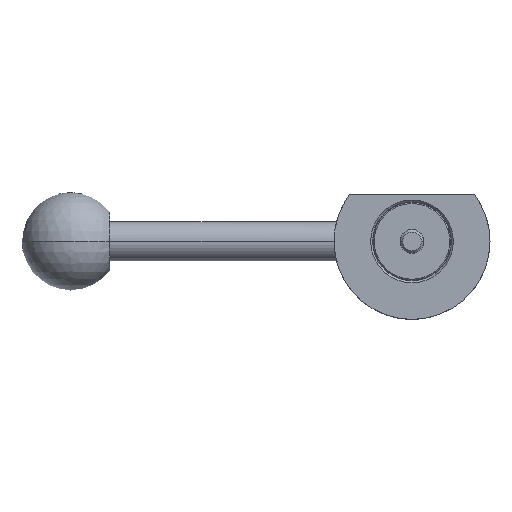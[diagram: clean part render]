
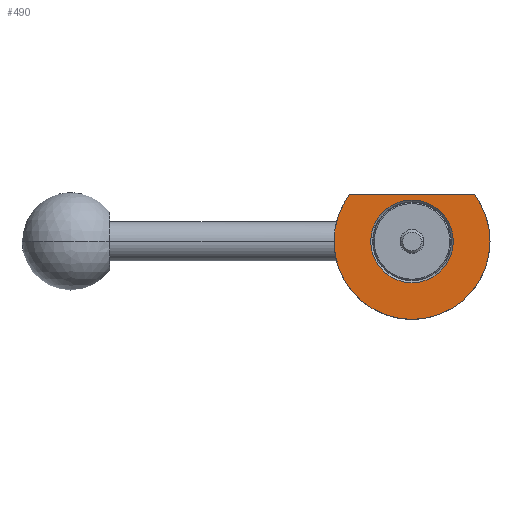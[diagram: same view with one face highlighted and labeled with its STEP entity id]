
A CAD part, front view. The second image highlights one B-rep face of the part: STEP entity #490.
In plain terms, the highlighted planar face has unit normal (0, -1, 0).
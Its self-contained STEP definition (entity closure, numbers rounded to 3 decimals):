
#20 = CIRCLE ( 'NONE', #961, 10.6 ) ;
#36 = DIRECTION ( 'NONE',  ( -1., 0., 0. ) ) ;
#106 = CARTESIAN_POINT ( 'NONE',  ( 20., -10., 0. ) ) ;
#160 = VERTEX_POINT ( 'NONE', #323 ) ;
#177 = DIRECTION ( 'NONE',  ( -1., 0., 0. ) ) ;
#205 = CARTESIAN_POINT ( 'NONE',  ( 0., -10., 0. ) ) ;
#263 = EDGE_CURVE ( 'NONE', #1406, #1553, #1927, .T. ) ;
#309 = VECTOR ( 'NONE', #1874, 1000. ) ;
#323 = CARTESIAN_POINT ( 'NONE',  ( -20., -10., 0. ) ) ;
#334 = EDGE_CURVE ( 'NONE', #1553, #1406, #20, .T. ) ;
#393 = DIRECTION ( 'NONE',  ( 0., 1., 0. ) ) ;
#433 = FACE_OUTER_BOUND ( 'NONE', #746, .T. ) ;
#450 = CIRCLE ( 'NONE', #1135, 20. ) ;
#490 = ADVANCED_FACE ( 'NONE', ( #724, #433 ), #1507, .T. ) ;
#508 = DIRECTION ( 'NONE',  ( -1., 0., 0. ) ) ;
#533 = CARTESIAN_POINT ( 'NONE',  ( -16.001, -10., 11.999 ) ) ;
#585 = ORIENTED_EDGE ( 'NONE', *, *, #971, .F. ) ;
#602 = ORIENTED_EDGE ( 'NONE', *, *, #1357, .F. ) ;
#637 = CIRCLE ( 'NONE', #1267, 20. ) ;
#639 = CARTESIAN_POINT ( 'NONE',  ( 0., -10., 0. ) ) ;
#724 = FACE_BOUND ( 'NONE', #1420, .T. ) ;
#746 = EDGE_LOOP ( 'NONE', ( #1488, #1367, #585, #602 ) ) ;
#799 = AXIS2_PLACEMENT_3D ( 'NONE', #1340, #1049, #1355 ) ;
#828 = CARTESIAN_POINT ( 'NONE',  ( 0., -10., 0. ) ) ;
#961 = AXIS2_PLACEMENT_3D ( 'NONE', #828, #1307, #508 ) ;
#971 = EDGE_CURVE ( 'NONE', #160, #1997, #450, .T. ) ;
#989 = DIRECTION ( 'NONE',  ( 0., 1., 0. ) ) ;
#1007 = CARTESIAN_POINT ( 'NONE',  ( 16.001, -10., 11.999 ) ) ;
#1010 = CARTESIAN_POINT ( 'NONE',  ( 10.6, -10., 0. ) ) ;
#1049 = DIRECTION ( 'NONE',  ( 0., -1., 0. ) ) ;
#1052 = CARTESIAN_POINT ( 'NONE',  ( -10.6, -10., 0. ) ) ;
#1093 = AXIS2_PLACEMENT_3D ( 'NONE', #1447, #989, #36 ) ;
#1135 = AXIS2_PLACEMENT_3D ( 'NONE', #1509, #393, #1177 ) ;
#1167 = CIRCLE ( 'NONE', #1199, 20. ) ;
#1177 = DIRECTION ( 'NONE',  ( -1., 0., 0. ) ) ;
#1199 = AXIS2_PLACEMENT_3D ( 'NONE', #639, #1266, #177 ) ;
#1244 = CARTESIAN_POINT ( 'NONE',  ( -10.6, -10., 11.999 ) ) ;
#1266 = DIRECTION ( 'NONE',  ( 0., 1., 0. ) ) ;
#1267 = AXIS2_PLACEMENT_3D ( 'NONE', #205, #1675, #1322 ) ;
#1307 = DIRECTION ( 'NONE',  ( 0., 1., 0. ) ) ;
#1322 = DIRECTION ( 'NONE',  ( -1., 0., 0. ) ) ;
#1330 = ORIENTED_EDGE ( 'NONE', *, *, #263, .T. ) ;
#1340 = CARTESIAN_POINT ( 'NONE',  ( -10.6, -10., 0. ) ) ;
#1355 = DIRECTION ( 'NONE',  ( 1., 0., 0. ) ) ;
#1357 = EDGE_CURVE ( 'NONE', #1377, #160, #637, .T. ) ;
#1367 = ORIENTED_EDGE ( 'NONE', *, *, #1804, .T. ) ;
#1377 = VERTEX_POINT ( 'NONE', #106 ) ;
#1406 = VERTEX_POINT ( 'NONE', #1010 ) ;
#1420 = EDGE_LOOP ( 'NONE', ( #1330, #1929 ) ) ;
#1447 = CARTESIAN_POINT ( 'NONE',  ( 0., -10., 0. ) ) ;
#1488 = ORIENTED_EDGE ( 'NONE', *, *, #1732, .F. ) ;
#1507 = PLANE ( 'NONE',  #799 ) ;
#1509 = CARTESIAN_POINT ( 'NONE',  ( 0., -10., 0. ) ) ;
#1553 = VERTEX_POINT ( 'NONE', #1052 ) ;
#1675 = DIRECTION ( 'NONE',  ( 0., 1., 0. ) ) ;
#1732 = EDGE_CURVE ( 'NONE', #1914, #1377, #1167, .T. ) ;
#1804 = EDGE_CURVE ( 'NONE', #1914, #1997, #2024, .T. ) ;
#1874 = DIRECTION ( 'NONE',  ( -1., 0., 0. ) ) ;
#1914 = VERTEX_POINT ( 'NONE', #1007 ) ;
#1927 = CIRCLE ( 'NONE', #1093, 10.6 ) ;
#1929 = ORIENTED_EDGE ( 'NONE', *, *, #334, .T. ) ;
#1997 = VERTEX_POINT ( 'NONE', #533 ) ;
#2024 = LINE ( 'NONE', #1244, #309 ) ;
